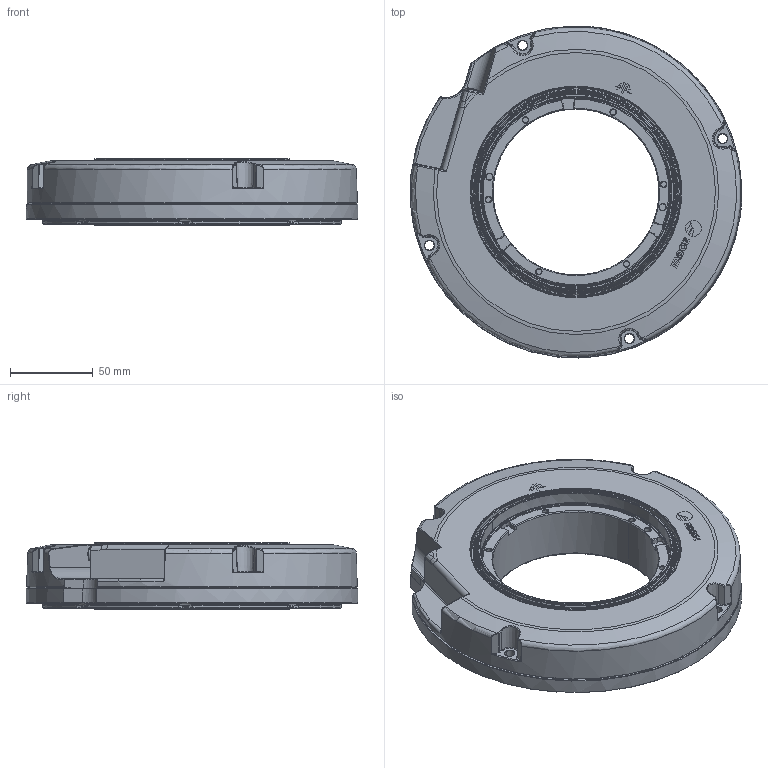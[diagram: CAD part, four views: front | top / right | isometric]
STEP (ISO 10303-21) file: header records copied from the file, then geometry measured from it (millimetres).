
FILE_DESCRIPTION(('Creo Elements/Direct Modeling STEP Export'),'2;1');
FILE_NAME('H3-D200i100.stp','2024-07-12T10:17:52',(''),(''),'Creo Elements/Direct Modeling STEP processor for AP214 (Solid Model)','Creo Elements/Direct Modeling 20.4A 18-Oct-2021 (C) Parametric Technology GmbH','');
FILE_SCHEMA(('AUTOMOTIVE_DESIGN { 1 0 10303 214 1 1 1 1 }'));
Length unit declared in the file: millimetre
Products named in the file (2): H3-D200i100
Assembly tree (1 placements, depth 2):
  H3-D200i100
    H3-D200i100
Bounding box: 199.97 x 199.99 x 40 mm (x, y, z)
Volume: 799077.3 mm3; surface area: 95738 mm2
Topology: 1 solids, 20 shells, 1800 faces, 5446 edges, 3790 vertices
Faces by surface type: plane 939, cylinder 323, torus 196, cone 185, bspline 157
Entity records: 91072 total; most frequent: CARTESIAN_POINT 32485, ORIENTED_EDGE 10870, DIRECTION 6921, EDGE_CURVE 5435, VERTEX_POINT 3788, VECTOR 3165, LINE 3165, EDGE_LOOP 1953
